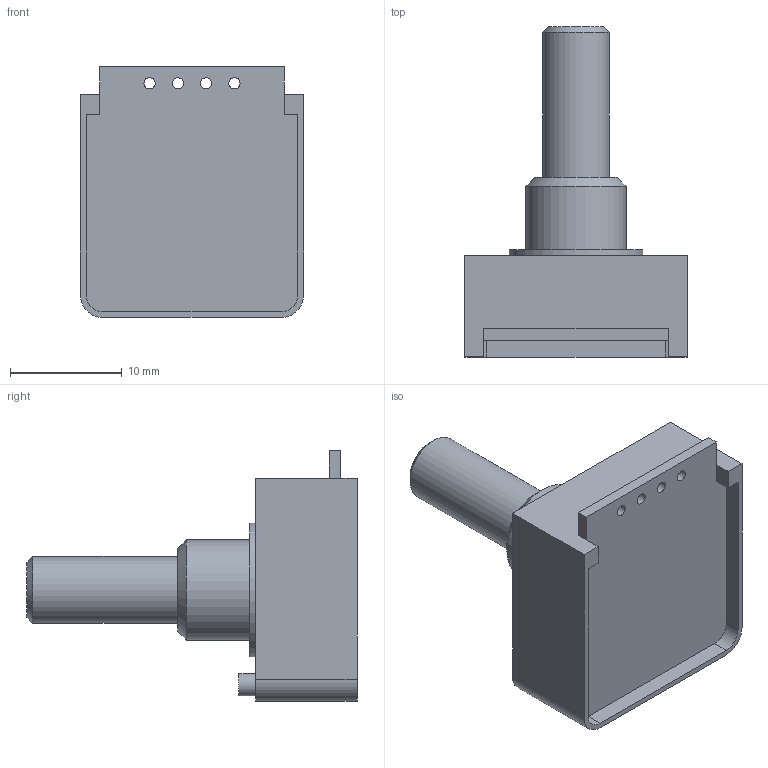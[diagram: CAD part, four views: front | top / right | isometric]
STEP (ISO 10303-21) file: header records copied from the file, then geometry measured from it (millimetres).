
FILE_DESCRIPTION (( 'STEP AP214' ), '1' );
FILE_NAME ('MRX_20B-Dummy.STEP', '2019-05-23T13:30:29', ( '' ), ( '' ), 'SwSTEP 2.0', 'SolidWorks 2017', '' );
FILE_SCHEMA (( 'AUTOMOTIVE_DESIGN' ));
Length unit declared in the file: millimetre
Products named in the file (1): MRX_20B-Dummy
Bounding box: 20 x 29.6 x 22.5 mm (x, y, z)
Volume: 3960.7 mm3; surface area: 2113.4 mm2
Topology: 1 solids, 1 shells, 36 faces, 93 edges, 63 vertices
Faces by surface type: plane 22, cylinder 12, cone 2
Full cylindrical faces by diameter (mm): 1 x4, 2 x1, 6 x1, 9 x1, 12 x1
Entity records: 1044 total; most frequent: DIRECTION 176, CARTESIAN_POINT 169, ORIENTED_EDGE 152, EDGE_CURVE 76, AXIS2_PLACEMENT_3D 63, EDGE_LOOP 58, VERTEX_POINT 56, VECTOR 50
